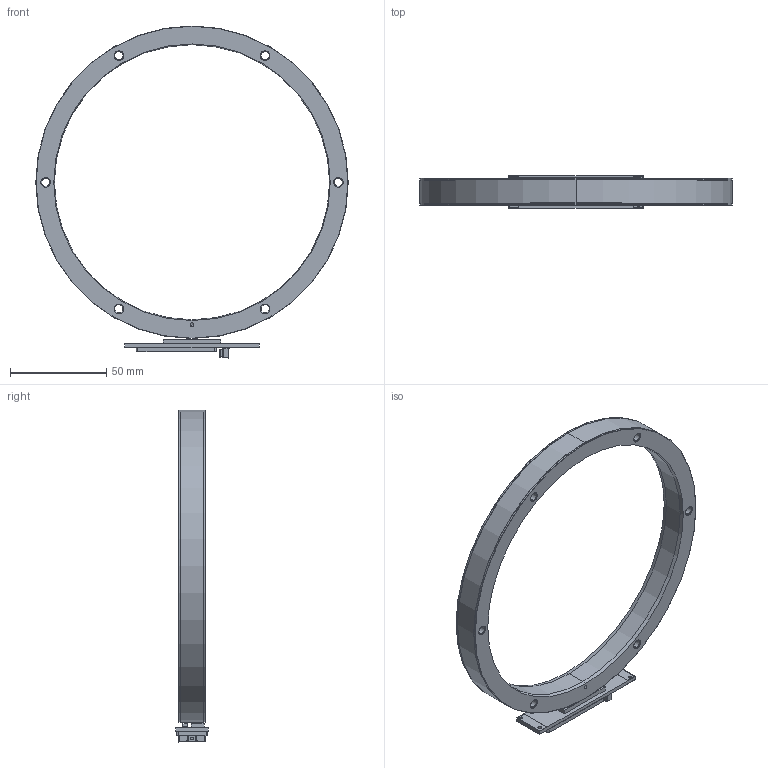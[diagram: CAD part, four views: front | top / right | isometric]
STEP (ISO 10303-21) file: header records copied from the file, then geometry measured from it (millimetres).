
FILE_DESCRIPTION (( 'STEP AP214' ), '1' );
FILE_NAME ('DBRxVx_SAR162_exposed.STEP', '2024-02-02T13:14:02', ( '' ), ( '' ), 'SwSTEP 2.0', 'SolidWorks 2022', '' );
FILE_SCHEMA (( 'AUTOMOTIVE_DESIGN' ));
Length unit declared in the file: millimetre
Products named in the file (1): DBRxVx_SAR162_exposed
Bounding box: 162.4 x 17 x 172.54 mm (x, y, z)
Volume: 68113.3 mm3; surface area: 27469.5 mm2
Topology: 2 solids, 2 shells, 1679 faces, 4609 edges, 3061 vertices
Faces by surface type: plane 1320, bspline 202, cylinder 105, cone 40, torus 8, sphere 4
Entity records: 82316 total; most frequent: CARTESIAN_POINT 26229, ORIENTED_EDGE 9208, DIRECTION 5340, EDGE_CURVE 4604, VERTEX_POINT 3061, B_SPLINE_CURVE_WITH_KNOTS 2364, LINE 2096, VECTOR 2096
